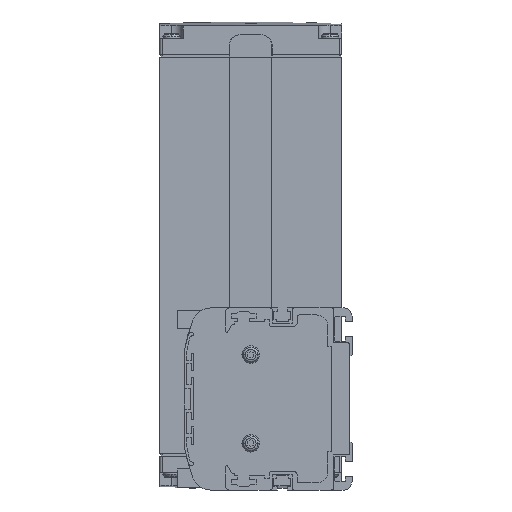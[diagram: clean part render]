
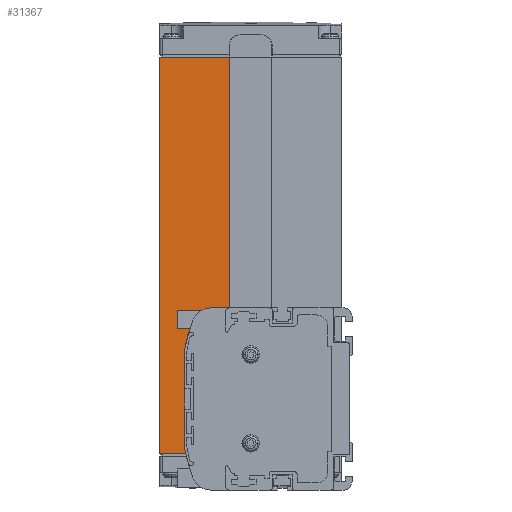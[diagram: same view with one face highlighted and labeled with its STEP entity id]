
A CAD part, left-side view. The second image highlights one B-rep face of the part: STEP entity #31367.
In plain terms, the highlighted planar face has unit normal (-1, 0, 0).
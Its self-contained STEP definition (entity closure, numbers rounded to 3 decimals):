
#7658=DIRECTION('',(0.,-1.,0.));
#7659=VECTOR('',#7658,11.203);
#7660=CARTESIAN_POINT('',(3.,82.5,-23.5));
#7661=LINE('',#7660,#7659);
#7662=DIRECTION('',(0.,0.,-1.));
#7663=VECTOR('',#7662,170.);
#7664=CARTESIAN_POINT('',(3.,82.5,146.5));
#7665=LINE('',#7664,#7663);
#7666=DIRECTION('',(0.,1.,0.));
#7667=VECTOR('',#7666,29.9);
#7668=CARTESIAN_POINT('',(3.,52.6,146.5));
#7669=LINE('',#7668,#7667);
#7670=DIRECTION('',(0.,-1.,0.));
#7671=VECTOR('',#7670,8.155);
#7672=CARTESIAN_POINT('',(3.,60.755,39.));
#7673=LINE('',#7672,#7671);
#10690=CARTESIAN_POINT('',(3.,-6.765,-6.));
#10691=DIRECTION('',(1.,0.,0.));
#10692=DIRECTION('',(0.,0.976,-0.219));
#10693=AXIS2_PLACEMENT_3D('',#10690,#10691,#10692);
#10699=CARTESIAN_POINT('',(3.,70.,-19.823));
#10700=DIRECTION('',(-1.,0.,0.));
#10701=DIRECTION('',(0.,1.,0.));
#10702=AXIS2_PLACEMENT_3D('',#10699,#10700,#10701);
#10712=DIRECTION('',(0.,0.,1.));
#10713=VECTOR('',#10712,39.645);
#10714=CARTESIAN_POINT('',(3.,72.,-19.823));
#10715=LINE('',#10714,#10713);
#10720=CARTESIAN_POINT('',(3.,70.,19.823));
#10721=DIRECTION('',(1.,0.,0.));
#10722=DIRECTION('',(0.,1.,0.));
#10723=AXIS2_PLACEMENT_3D('',#10720,#10721,#10722);
#10729=CARTESIAN_POINT('',(3.,-6.765,6.));
#10730=DIRECTION('',(1.,0.,0.));
#10731=DIRECTION('',(0.,0.984,0.177));
#10732=AXIS2_PLACEMENT_3D('',#10729,#10730,#10731);
#10734=CARTESIAN_POINT('',(3.,-6.765,6.));
#10735=DIRECTION('',(1.,0.,0.));
#10736=DIRECTION('',(0.,0.963,0.269));
#10737=AXIS2_PLACEMENT_3D('',#10734,#10735,#10736);
#10743=CARTESIAN_POINT('',(3.,60.755,31.));
#10744=DIRECTION('',(-1.,0.,0.));
#10745=DIRECTION('',(0.,0.,1.));
#10746=AXIS2_PLACEMENT_3D('',#10743,#10744,#10745);
#11137=DIRECTION('',(0.,-1.,0.));
#11138=VECTOR('',#11137,0.209);
#11139=CARTESIAN_POINT('',(3.,70.5,27.5));
#11140=LINE('',#11139,#11138);
#11161=DIRECTION('',(0.,0.,1.));
#11162=VECTOR('',#11161,0.762);
#11163=CARTESIAN_POINT('',(3.,70.5,26.738));
#11164=LINE('',#11163,#11162);
#11169=DIRECTION('',(0.,0.,1.));
#11170=VECTOR('',#11169,107.5);
#11171=CARTESIAN_POINT('',(3.,52.6,39.));
#11172=LINE('',#11171,#11170);
#17099=CARTESIAN_POINT('',(3.,82.5,-23.5));
#17101=VERTEX_POINT('',#17099);
#17196=CARTESIAN_POINT('',(3.,52.6,146.5));
#17197=VERTEX_POINT('',#17196);
#17198=CARTESIAN_POINT('',(3.,82.5,146.5));
#17199=VERTEX_POINT('',#17198);
#17232=CARTESIAN_POINT('',(3.,70.5,27.5));
#17233=VERTEX_POINT('',#17232);
#21053=CARTESIAN_POINT('',(3.,60.755,39.));
#21054=CARTESIAN_POINT('',(3.,52.6,39.));
#21055=VERTEX_POINT('',#21053);
#21056=VERTEX_POINT('',#21054);
#21057=CARTESIAN_POINT('',(3.,71.297,-23.5));
#21059=VERTEX_POINT('',#21057);
#21069=CARTESIAN_POINT('',(3.,70.5,26.738));
#21070=VERTEX_POINT('',#21069);
#21074=CARTESIAN_POINT('',(3.,70.291,27.5));
#21076=VERTEX_POINT('',#21074);
#21083=CARTESIAN_POINT('',(3.,72.,19.823));
#21084=CARTESIAN_POINT('',(3.,71.968,20.177));
#21085=VERTEX_POINT('',#21083);
#21086=VERTEX_POINT('',#21084);
#21087=CARTESIAN_POINT('',(3.,68.257,33.778));
#21088=VERTEX_POINT('',#21087);
#21101=CARTESIAN_POINT('',(3.,71.968,-20.177));
#21102=VERTEX_POINT('',#21101);
#21103=CARTESIAN_POINT('',(3.,72.,-19.823));
#21104=VERTEX_POINT('',#21103);
#31335=CARTESIAN_POINT('',(3.,67.55,61.5));
#31336=DIRECTION('',(1.,0.,0.));
#31337=DIRECTION('',(0.,-1.,0.));
#31338=AXIS2_PLACEMENT_3D('',#31335,#31336,#31337);
#31339=PLANE('',#31338);
#31341=ORIENTED_EDGE('',*,*,#31340,.F.);
#31343=ORIENTED_EDGE('',*,*,#31342,.T.);
#31345=ORIENTED_EDGE('',*,*,#31344,.F.);
#31347=ORIENTED_EDGE('',*,*,#31346,.F.);
#31349=ORIENTED_EDGE('',*,*,#31348,.F.);
#31351=ORIENTED_EDGE('',*,*,#31350,.F.);
#31353=ORIENTED_EDGE('',*,*,#31352,.F.);
#31355=ORIENTED_EDGE('',*,*,#31354,.F.);
#31357=ORIENTED_EDGE('',*,*,#31356,.T.);
#31359=ORIENTED_EDGE('',*,*,#31358,.F.);
#31360=ORIENTED_EDGE('',*,*,#26101,.F.);
#31361=ORIENTED_EDGE('',*,*,#31323,.F.);
#31362=ORIENTED_EDGE('',*,*,#29223,.F.);
#31364=ORIENTED_EDGE('',*,*,#31363,.F.);
#31365=EDGE_LOOP('',(#31341,#31343,#31345,#31347,#31349,#31351,#31353,#31355,
#31357,#31359,#31360,#31361,#31362,#31364));
#31366=FACE_OUTER_BOUND('',#31365,.F.);
#31367=ADVANCED_FACE('',(#31366),#31339,.F.);
#10694=CIRCLE('',#10693,80.);
#10703=CIRCLE('',#10702,2.);
#10724=CIRCLE('',#10723,2.);
#10733=CIRCLE('',#10732,80.);
#10738=CIRCLE('',#10737,80.);
#10747=CIRCLE('',#10746,8.);
#26101=EDGE_CURVE('',#17101,#21059,#7661,.T.);
#29223=EDGE_CURVE('',#17197,#17199,#7669,.T.);
#31323=EDGE_CURVE('',#17199,#17101,#7665,.T.);
#31340=EDGE_CURVE('',#21055,#21056,#7673,.T.);
#31342=EDGE_CURVE('',#21055,#21088,#10747,.T.);
#31344=EDGE_CURVE('',#21076,#21088,#10738,.T.);
#31346=EDGE_CURVE('',#17233,#21076,#11140,.T.);
#31348=EDGE_CURVE('',#21070,#17233,#11164,.T.);
#31350=EDGE_CURVE('',#21086,#21070,#10733,.T.);
#31352=EDGE_CURVE('',#21085,#21086,#10724,.T.);
#31354=EDGE_CURVE('',#21104,#21085,#10715,.T.);
#31356=EDGE_CURVE('',#21104,#21102,#10703,.T.);
#31358=EDGE_CURVE('',#21059,#21102,#10694,.T.);
#31363=EDGE_CURVE('',#21056,#17197,#11172,.T.);
